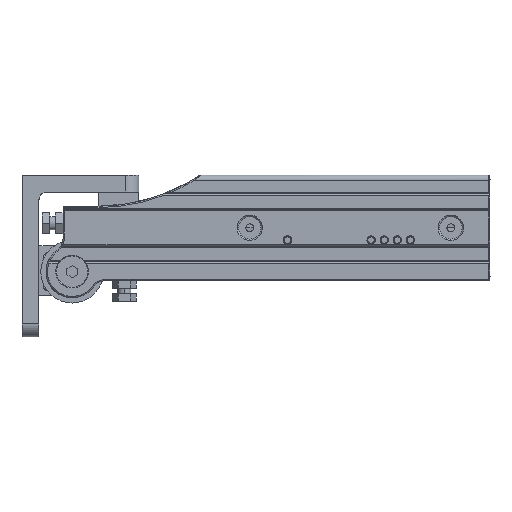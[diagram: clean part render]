
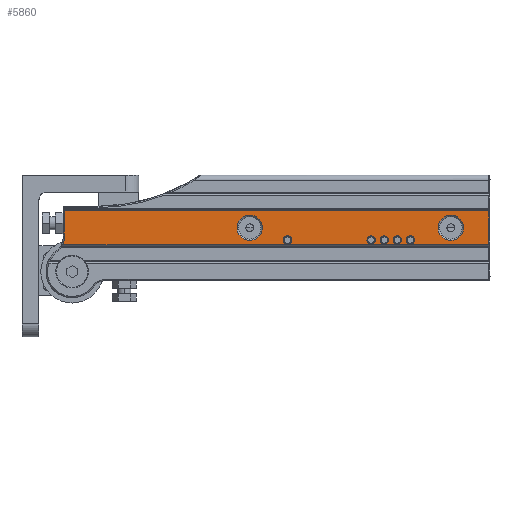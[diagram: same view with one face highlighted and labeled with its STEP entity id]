
A CAD part, front view. The second image highlights one B-rep face of the part: STEP entity #5860.
In plain terms, the highlighted planar face has unit normal (0, -1, 0).
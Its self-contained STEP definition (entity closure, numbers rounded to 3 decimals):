
#1097=CARTESIAN_POINT('',(-77.5,-26.,-4.7));
#1098=DIRECTION('',(0.,1.,0.));
#1099=DIRECTION('',(-1.,0.,0.));
#1100=AXIS2_PLACEMENT_3D('',#1097,#1098,#1099);
#1102=CARTESIAN_POINT('',(-77.5,-26.,-4.7));
#1103=DIRECTION('',(0.,1.,0.));
#1104=DIRECTION('',(1.,0.,0.));
#1105=AXIS2_PLACEMENT_3D('',#1102,#1103,#1104);
#1107=CARTESIAN_POINT('',(-45.5,-26.,-4.7));
#1108=DIRECTION('',(0.,1.,0.));
#1109=DIRECTION('',(-1.,0.,0.));
#1110=AXIS2_PLACEMENT_3D('',#1107,#1108,#1109);
#1112=CARTESIAN_POINT('',(-45.5,-26.,-4.7));
#1113=DIRECTION('',(0.,1.,0.));
#1114=DIRECTION('',(1.,0.,0.));
#1115=AXIS2_PLACEMENT_3D('',#1112,#1113,#1114);
#1117=CARTESIAN_POINT('',(-40.5,-26.,-4.7));
#1118=DIRECTION('',(0.,1.,0.));
#1119=DIRECTION('',(-1.,0.,0.));
#1120=AXIS2_PLACEMENT_3D('',#1117,#1118,#1119);
#1122=CARTESIAN_POINT('',(-40.5,-26.,-4.7));
#1123=DIRECTION('',(0.,1.,0.));
#1124=DIRECTION('',(1.,0.,0.));
#1125=AXIS2_PLACEMENT_3D('',#1122,#1123,#1124);
#1127=CARTESIAN_POINT('',(-35.5,-26.,-4.7));
#1128=DIRECTION('',(0.,1.,0.));
#1129=DIRECTION('',(-1.,0.,0.));
#1130=AXIS2_PLACEMENT_3D('',#1127,#1128,#1129);
#1132=CARTESIAN_POINT('',(-35.5,-26.,-4.7));
#1133=DIRECTION('',(0.,1.,0.));
#1134=DIRECTION('',(1.,0.,0.));
#1135=AXIS2_PLACEMENT_3D('',#1132,#1133,#1134);
#1137=CARTESIAN_POINT('',(-30.5,-26.,-4.7));
#1138=DIRECTION('',(0.,1.,0.));
#1139=DIRECTION('',(-1.,0.,0.));
#1140=AXIS2_PLACEMENT_3D('',#1137,#1138,#1139);
#1142=CARTESIAN_POINT('',(-30.5,-26.,-4.7));
#1143=DIRECTION('',(0.,1.,0.));
#1144=DIRECTION('',(1.,0.,0.));
#1145=AXIS2_PLACEMENT_3D('',#1142,#1143,#1144);
#1147=CARTESIAN_POINT('',(-92.,-26.,0.));
#1148=DIRECTION('',(0.,1.,0.));
#1149=DIRECTION('',(1.,0.,0.));
#1150=AXIS2_PLACEMENT_3D('',#1147,#1148,#1149);
#1152=CARTESIAN_POINT('',(-92.,-26.,0.));
#1153=DIRECTION('',(0.,1.,0.));
#1154=DIRECTION('',(-1.,0.,0.));
#1155=AXIS2_PLACEMENT_3D('',#1152,#1153,#1154);
#1157=CARTESIAN_POINT('',(-15.,-26.,0.));
#1158=DIRECTION('',(0.,1.,0.));
#1159=DIRECTION('',(1.,0.,0.));
#1160=AXIS2_PLACEMENT_3D('',#1157,#1158,#1159);
#1162=CARTESIAN_POINT('',(-15.,-26.,0.));
#1163=DIRECTION('',(0.,1.,0.));
#1164=DIRECTION('',(-1.,0.,0.));
#1165=AXIS2_PLACEMENT_3D('',#1162,#1163,#1164);
#1198=CARTESIAN_POINT('',(-169.5,-26.,-3.926));
#1199=DIRECTION('',(0.,1.,0.));
#1200=DIRECTION('',(1.,0.,0.));
#1201=AXIS2_PLACEMENT_3D('',#1198,#1199,#1200);
#1203=DIRECTION('',(0.,0.,-1.));
#1204=VECTOR('',#1203,10.426);
#1205=CARTESIAN_POINT('',(-163.,-26.,6.5));
#1206=LINE('',#1205,#1204);
#1207=DIRECTION('',(1.,0.,0.));
#1208=VECTOR('',#1207,162.5);
#1209=CARTESIAN_POINT('',(-163.,-26.,6.5));
#1210=LINE('',#1209,#1208);
#1211=DIRECTION('',(0.,0.,-1.));
#1212=VECTOR('',#1211,13.);
#1213=CARTESIAN_POINT('',(-0.5,-26.,6.5));
#1214=LINE('',#1213,#1212);
#1215=DIRECTION('',(1.,0.,0.));
#1216=VECTOR('',#1215,163.032);
#1217=CARTESIAN_POINT('',(-163.532,-26.,
-6.5));
#1218=LINE('',#1217,#1216);
#3272=CARTESIAN_POINT('',(-163.532,-26.,
-6.5));
#3648=CARTESIAN_POINT('',(-79.1,-26.,-4.7));
#3649=CARTESIAN_POINT('',(-75.9,-26.,-4.7));
#3650=VERTEX_POINT('',#3648);
#3651=VERTEX_POINT('',#3649);
#3656=CARTESIAN_POINT('',(-47.1,-26.,-4.7));
#3657=CARTESIAN_POINT('',(-43.9,-26.,-4.7));
#3658=VERTEX_POINT('',#3656);
#3659=VERTEX_POINT('',#3657);
#3664=CARTESIAN_POINT('',(-42.1,-26.,-4.7));
#3665=CARTESIAN_POINT('',(-38.9,-26.,-4.7));
#3666=VERTEX_POINT('',#3664);
#3667=VERTEX_POINT('',#3665);
#3672=CARTESIAN_POINT('',(-37.1,-26.,-4.7));
#3673=CARTESIAN_POINT('',(-33.9,-26.,-4.7));
#3674=VERTEX_POINT('',#3672);
#3675=VERTEX_POINT('',#3673);
#3680=CARTESIAN_POINT('',(-32.1,-26.,-4.7));
#3681=CARTESIAN_POINT('',(-28.9,-26.,-4.7));
#3682=VERTEX_POINT('',#3680);
#3683=VERTEX_POINT('',#3681);
#3688=CARTESIAN_POINT('',(-87.15,-26.,0.));
#3689=CARTESIAN_POINT('',(-96.85,-26.,0.));
#3690=VERTEX_POINT('',#3688);
#3691=VERTEX_POINT('',#3689);
#3696=CARTESIAN_POINT('',(-10.15,-26.,0.));
#3697=CARTESIAN_POINT('',(-19.85,-26.,0.));
#3698=VERTEX_POINT('',#3696);
#3699=VERTEX_POINT('',#3697);
#4056=VERTEX_POINT('',#3272);
#4059=CARTESIAN_POINT('',(-163.,-26.,-3.926));
#4060=VERTEX_POINT('',#4059);
#4062=CARTESIAN_POINT('',(-163.,-26.,6.5));
#4064=VERTEX_POINT('',#4062);
#4106=CARTESIAN_POINT('',(-0.5,-26.,-6.5));
#4108=VERTEX_POINT('',#4106);
#4109=CARTESIAN_POINT('',(-0.5,-26.,6.5));
#4110=VERTEX_POINT('',#4109);
#5802=CARTESIAN_POINT('',(0.,-26.,20.2));
#5803=DIRECTION('',(0.,-1.,0.));
#5804=DIRECTION('',(0.,0.,-1.));
#5805=AXIS2_PLACEMENT_3D('',#5802,#5803,#5804);
#5806=PLANE('',#5805);
#5808=ORIENTED_EDGE('',*,*,#5807,.F.);
#5810=ORIENTED_EDGE('',*,*,#5809,.F.);
#5812=ORIENTED_EDGE('',*,*,#5811,.T.);
#5814=ORIENTED_EDGE('',*,*,#5813,.T.);
#5816=ORIENTED_EDGE('',*,*,#5815,.F.);
#5817=EDGE_LOOP('',(#5808,#5810,#5812,#5814,#5816));
#5818=FACE_OUTER_BOUND('',#5817,.F.);
#5820=ORIENTED_EDGE('',*,*,#5819,.F.);
#5822=ORIENTED_EDGE('',*,*,#5821,.F.);
#5823=EDGE_LOOP('',(#5820,#5822));
#5824=FACE_BOUND('',#5823,.F.);
#5826=ORIENTED_EDGE('',*,*,#5825,.F.);
#5828=ORIENTED_EDGE('',*,*,#5827,.F.);
#5829=EDGE_LOOP('',(#5826,#5828));
#5830=FACE_BOUND('',#5829,.F.);
#5832=ORIENTED_EDGE('',*,*,#5831,.F.);
#5834=ORIENTED_EDGE('',*,*,#5833,.F.);
#5835=EDGE_LOOP('',(#5832,#5834));
#5836=FACE_BOUND('',#5835,.F.);
#5838=ORIENTED_EDGE('',*,*,#5837,.F.);
#5840=ORIENTED_EDGE('',*,*,#5839,.F.);
#5841=EDGE_LOOP('',(#5838,#5840));
#5842=FACE_BOUND('',#5841,.F.);
#5844=ORIENTED_EDGE('',*,*,#5843,.F.);
#5846=ORIENTED_EDGE('',*,*,#5845,.F.);
#5847=EDGE_LOOP('',(#5844,#5846));
#5848=FACE_BOUND('',#5847,.F.);
#5850=ORIENTED_EDGE('',*,*,#5849,.F.);
#5852=ORIENTED_EDGE('',*,*,#5851,.F.);
#5853=EDGE_LOOP('',(#5850,#5852));
#5854=FACE_BOUND('',#5853,.F.);
#5855=ORIENTED_EDGE('',*,*,#5770,.F.);
#5857=ORIENTED_EDGE('',*,*,#5856,.F.);
#5858=EDGE_LOOP('',(#5855,#5857));
#5859=FACE_BOUND('',#5858,.F.);
#1101=CIRCLE('',#1100,1.6);
#1106=CIRCLE('',#1105,1.6);
#1111=CIRCLE('',#1110,1.6);
#1116=CIRCLE('',#1115,1.6);
#1121=CIRCLE('',#1120,1.6);
#1126=CIRCLE('',#1125,1.6);
#1131=CIRCLE('',#1130,1.6);
#1136=CIRCLE('',#1135,1.6);
#1141=CIRCLE('',#1140,1.6);
#1146=CIRCLE('',#1145,1.6);
#1151=CIRCLE('',#1150,4.85);
#1156=CIRCLE('',#1155,4.85);
#1161=CIRCLE('',#1160,4.85);
#1166=CIRCLE('',#1165,4.85);
#1202=CIRCLE('',#1201,6.5);
#5770=EDGE_CURVE('',#3698,#3699,#1161,.T.);
#5807=EDGE_CURVE('',#4060,#4056,#1202,.T.);
#5809=EDGE_CURVE('',#4064,#4060,#1206,.T.);
#5811=EDGE_CURVE('',#4064,#4110,#1210,.T.);
#5813=EDGE_CURVE('',#4110,#4108,#1214,.T.);
#5815=EDGE_CURVE('',#4056,#4108,#1218,.T.);
#5819=EDGE_CURVE('',#3650,#3651,#1101,.T.);
#5821=EDGE_CURVE('',#3651,#3650,#1106,.T.);
#5825=EDGE_CURVE('',#3658,#3659,#1111,.T.);
#5827=EDGE_CURVE('',#3659,#3658,#1116,.T.);
#5831=EDGE_CURVE('',#3666,#3667,#1121,.T.);
#5833=EDGE_CURVE('',#3667,#3666,#1126,.T.);
#5837=EDGE_CURVE('',#3674,#3675,#1131,.T.);
#5839=EDGE_CURVE('',#3675,#3674,#1136,.T.);
#5843=EDGE_CURVE('',#3682,#3683,#1141,.T.);
#5845=EDGE_CURVE('',#3683,#3682,#1146,.T.);
#5849=EDGE_CURVE('',#3690,#3691,#1151,.T.);
#5851=EDGE_CURVE('',#3691,#3690,#1156,.T.);
#5856=EDGE_CURVE('',#3699,#3698,#1166,.T.);
#5860=ADVANCED_FACE('',(#5818,#5824,#5830,#5836,#5842,#5848,#5854,#5859),#5806,
.T.);
